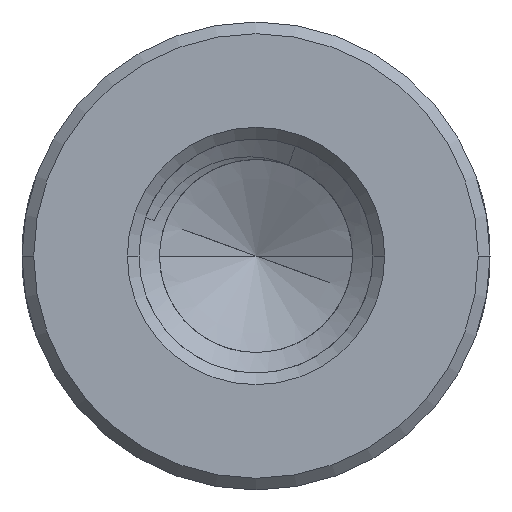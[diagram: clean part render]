
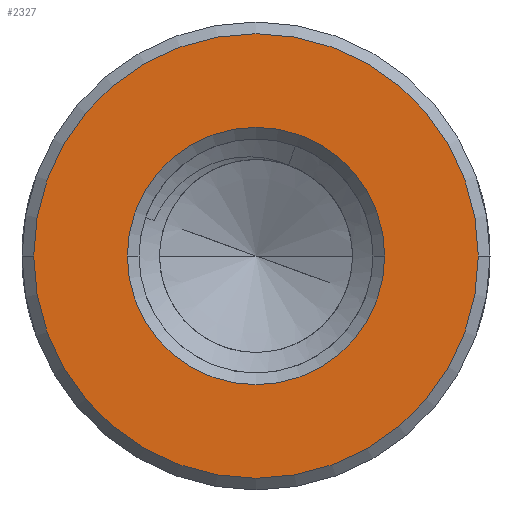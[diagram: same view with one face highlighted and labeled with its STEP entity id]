
A CAD part, front view. The second image highlights one B-rep face of the part: STEP entity #2327.
In plain terms, the highlighted planar face has unit normal (0, -1, 0).
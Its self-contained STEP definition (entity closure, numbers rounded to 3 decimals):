
#1=CARTESIAN_POINT('',(0.,-20.,0.));
#2=DIRECTION('',(0.,-1.,0.));
#3=DIRECTION('',(-1.,0.,0.));
#4=AXIS2_PLACEMENT_3D('',#1,#2,#3);
#6=CARTESIAN_POINT('',(0.,-20.,0.));
#7=DIRECTION('',(0.,-1.,0.));
#8=DIRECTION('',(1.,0.,0.));
#9=AXIS2_PLACEMENT_3D('',#6,#7,#8);
#11=CARTESIAN_POINT('',(0.,-20.,0.));
#12=DIRECTION('',(0.,1.,0.));
#13=DIRECTION('',(-1.,0.,0.));
#14=AXIS2_PLACEMENT_3D('',#11,#12,#13);
#16=CARTESIAN_POINT('',(0.,-20.,0.));
#17=DIRECTION('',(0.,1.,0.));
#18=DIRECTION('',(1.,0.,0.));
#19=AXIS2_PLACEMENT_3D('',#16,#17,#18);
#2168=CARTESIAN_POINT('',(-5.7,-20.,0.));
#2169=CARTESIAN_POINT('',(5.7,-20.,0.));
#2170=VERTEX_POINT('',#2168);
#2171=VERTEX_POINT('',#2169);
#2260=CARTESIAN_POINT('',(-3.3,-20.,0.));
#2261=CARTESIAN_POINT('',(3.3,-20.,0.));
#2262=VERTEX_POINT('',#2260);
#2263=VERTEX_POINT('',#2261);
#2310=CARTESIAN_POINT('',(0.,-20.,0.));
#2311=DIRECTION('',(0.,1.,0.));
#2312=DIRECTION('',(1.,0.,0.));
#2313=AXIS2_PLACEMENT_3D('',#2310,#2311,#2312);
#2314=PLANE('',#2313);
#2316=ORIENTED_EDGE('',*,*,#2315,.F.);
#2318=ORIENTED_EDGE('',*,*,#2317,.F.);
#2319=EDGE_LOOP('',(#2316,#2318));
#2320=FACE_OUTER_BOUND('',#2319,.F.);
#2322=ORIENTED_EDGE('',*,*,#2321,.F.);
#2324=ORIENTED_EDGE('',*,*,#2323,.F.);
#2325=EDGE_LOOP('',(#2322,#2324));
#2326=FACE_BOUND('',#2325,.F.);
#2327=ADVANCED_FACE('',(#2320,#2326),#2314,.F.);
#5=CIRCLE('',#4,5.7);
#10=CIRCLE('',#9,5.7);
#15=CIRCLE('',#14,3.3);
#20=CIRCLE('',#19,3.3);
#2315=EDGE_CURVE('',#2170,#2171,#5,.T.);
#2317=EDGE_CURVE('',#2171,#2170,#10,.T.);
#2321=EDGE_CURVE('',#2262,#2263,#15,.T.);
#2323=EDGE_CURVE('',#2263,#2262,#20,.T.);
